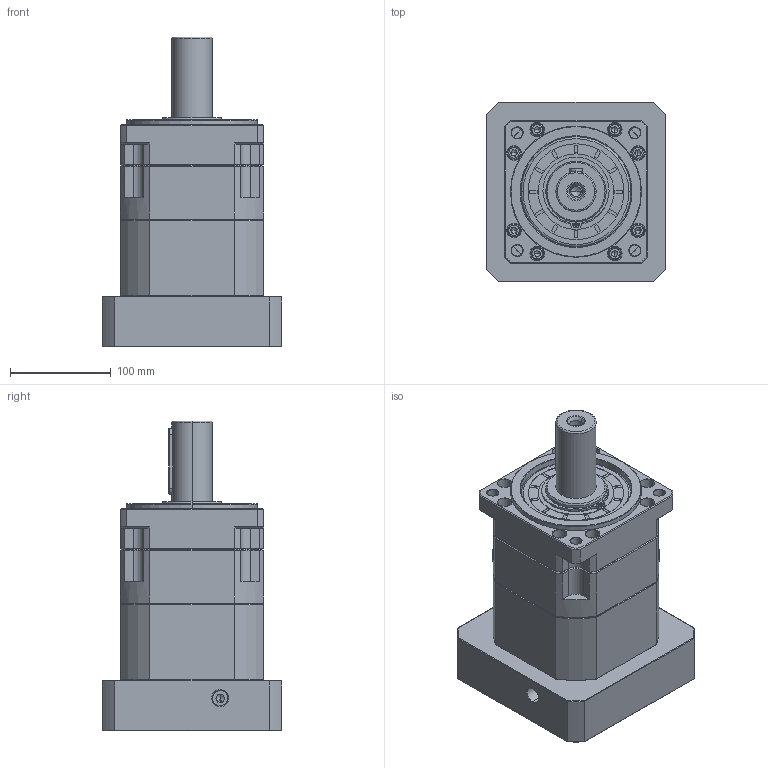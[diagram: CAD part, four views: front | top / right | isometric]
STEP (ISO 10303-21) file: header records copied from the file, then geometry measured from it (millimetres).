
FILE_DESCRIPTION (( 'STEP AP214' ), '1' );
FILE_NAME ('ZB142A-D40-L1-42-114.3-200-M12.step', '2023-03-18T06:15:16', ( '' ), ( '' ), 'SwSTEP 2.0', 'SolidWorks 2016', '' );
FILE_SCHEMA (( 'AUTOMOTIVE_DESIGN' ));
Length unit declared in the file: millimetre
Products named in the file (1): ZB142A-D40-L1-42-114.3-200-M12
Bounding box: 178 x 178 x 307.2 mm (x, y, z)
Volume: 4095675.8 mm3; surface area: 373504.2 mm2
Topology: 6 solids, 6 shells, 2189 faces, 5642 edges, 3560 vertices
Faces by surface type: plane 1013, cylinder 452, cone 391, bspline 311, torus 22
Entity records: 117461 total; most frequent: CARTESIAN_POINT 42707, ORIENTED_EDGE 11224, DIRECTION 9400, EDGE_CURVE 5612, VERTEX_POINT 3560, LINE 3522, VECTOR 3522, AXIS2_PLACEMENT_3D 2939
